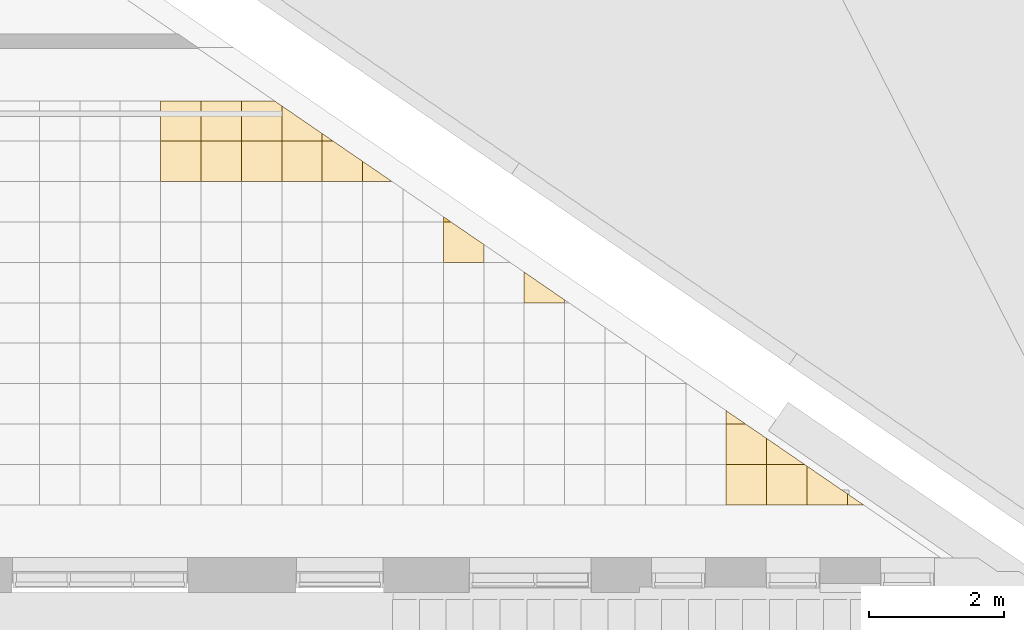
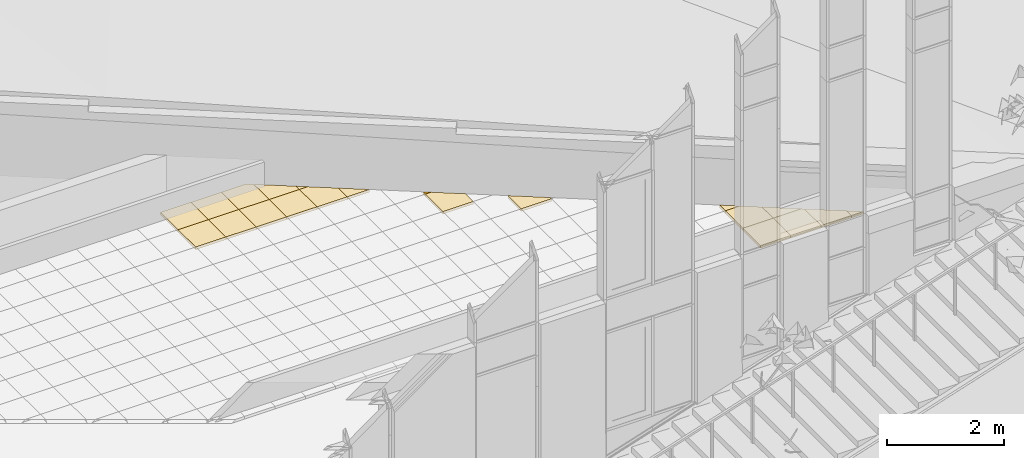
# One storey, part 200 of 246: 21 coverings.
"""IFC2X3 building model written with IfcOpenShell, lengths in millimetres."""

from ifc_helpers import new_model, entity, si_unit, converted_unit, derived_unit, money_unit, direction, frame, origin_with_axes, place, context, subcontext, project, spatial, faceted_brep, material, material_list, type_object, element, save


model = new_model("IFC2X3")

# Units and contexts
model_context = context("Model", 3, precision=0.01, world=origin_with_axes(), true_north=direction((0.0, 1.0)))
body_context = subcontext(model_context, "Body", "Model", "MODEL_VIEW")
ifc_project = project(units=[si_unit("LENGTHUNIT", "METRE", prefix="MILLI"), si_unit("AREAUNIT", "SQUARE_METRE"), si_unit("VOLUMEUNIT", "CUBIC_METRE"), converted_unit("PLANEANGLEUNIT", "DEGREE", entity("IfcPlaneAngleMeasure", 0.0174532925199), si_unit("PLANEANGLEUNIT", "RADIAN"), dimensions=[0, 0, 0, 0, 0, 0, 0]), si_unit("SOLIDANGLEUNIT", "STERADIAN"), money_unit("EUR"), converted_unit("TIMEUNIT", "Year", entity("IfcTimeMeasure", 31556926.0), si_unit("TIMEUNIT", "SECOND"), dimensions=[0, 0, 1, 0, 0, 0, 0]), si_unit("MASSUNIT", "GRAM", prefix="KILO"), si_unit("THERMODYNAMICTEMPERATUREUNIT", "DEGREE_CELSIUS"), si_unit("LUMINOUSINTENSITYUNIT", "LUMEN"), si_unit("ENERGYUNIT", "JOULE", prefix="MEGA"), derived_unit("THERMALCONDUCTANCEUNIT", [(si_unit("POWERUNIT", "WATT"), 1), (si_unit("LENGTHUNIT", "METRE"), -1), (si_unit("THERMODYNAMICTEMPERATUREUNIT", "KELVIN"), -1)]), derived_unit("SPECIFICHEATCAPACITYUNIT", [(si_unit("ENERGYUNIT", "JOULE"), 1), (si_unit("MASSUNIT", "GRAM", prefix="KILO"), -1), (si_unit("THERMODYNAMICTEMPERATUREUNIT", "KELVIN"), -1)]), derived_unit("MASSDENSITYUNIT", [(si_unit("MASSUNIT", "GRAM", prefix="KILO"), 1), (si_unit("VOLUMEUNIT", "CUBIC_METRE"), -1)])], contexts=[model_context])

# Site, building, storey
site_placement = place(None, origin_with_axes())
site = spatial("IfcSite", under=ifc_project, at=site_placement, Name="L.Koidula tn 11b", CompositionType="ELEMENT")
building_placement = place(site_placement, origin_with_axes())
building = spatial("IfcBuilding", under=site, at=building_placement, Name="Rakvere Riigigümnaasium", CompositionType="ELEMENT")
storey_placement = place(building_placement, origin_with_axes())
storey = spatial("IfcBuildingStorey", under=building, at=storey_placement, Name="1.korrus 0,00", CompositionType="ELEMENT", Elevation=0.0)

# Coverings
ifc_material_1 = material(Name="Karkass")
ifc_material_2 = material(Name="Kipsplaat")
ifc_material_list = material_list([ifc_material_1, ifc_material_2])
covering_type = type_object("IfcCoveringType", Name="SA-LV-Kips-moodul 55", PredefinedType="CEILING")
for number, where, z_axis, x_axis, name in (
    (1, (91709.8850867, 11090.4535941, 2750.0), (0.0, 0.0, 1.0), (1.0, 0.0, 0.0), "L-03"),
    (2, (91709.8850867, 11690.4535941, 2750.0), (0.0, 0.0, 1.0), (1.0, 0.0, 0.0), "L-03"),
):
    element("IfcCovering", number, at=place(storey_placement, frame(where, z_axis=z_axis, x_axis=x_axis)), inside=storey, type_object=covering_type, material=ifc_material_list, Name=name, PredefinedType="CEILING", context=body_context, shape_type="Brep", body=[
        faceted_brep([(599.999948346, 0.0, 12.5), (599.999948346, 0.0, 54.5), (0.0, 0.0, 54.5), (0.0, 0.0, 12.5), (599.999948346, 600.0, 12.5), (599.999948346, 600.0, 54.5), (0.0, 600.0, 54.5), (0.0, 600.0, 12.5)], [[[0, 1, 2, 3]], [[4, 5, 1, 0]], [[2, 1, 5, 6]], [[3, 2, 6, 7]], [[3, 7, 4, 0]], [[7, 6, 5, 4]]]),
        faceted_brep([(0.0, 0.0, 0.0), (599.999948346, 0.0, 0.0), (599.999948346, 0.0, 12.5), (0.0, 0.0, 12.5), (0.0, 600.0, 0.0), (599.999948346, 600.0, 0.0), (599.999948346, 600.0, 12.5), (0.0, 600.0, 12.5)], [[[0, 1, 2, 3]], [[0, 4, 5, 1]], [[1, 5, 6, 2]], [[3, 2, 6, 7]], [[4, 0, 3, 7]], [[5, 4, 7, 6]]]),
    ])
for number, where, z_axis, x_axis, name in (
    (3, (91109.8850867, 11090.4535941, 2750.0), (0.0, 0.0, 1.0), (1.0, 0.0, 0.0), "L-03"),
    (4, (91109.8850867, 11690.4535941, 2750.0), (0.0, 0.0, 1.0), (1.0, 0.0, 0.0), "L-03"),
):
    element("IfcCovering", number, at=place(storey_placement, frame(where, z_axis=z_axis, x_axis=x_axis)), inside=storey, type_object=covering_type, material=ifc_material_list, Name=name, PredefinedType="CEILING", context=body_context, shape_type="Brep", body=[
        faceted_brep([(600.0, 0.0, 12.5), (600.0, 0.0, 54.5), (0.0, 0.0, 54.5), (0.0, 0.0, 12.5), (600.0, 600.0, 12.5), (600.0, 600.0, 54.5), (0.0, 600.0, 54.5), (0.0, 600.0, 12.5)], [[[0, 1, 2, 3]], [[4, 5, 1, 0]], [[2, 1, 5, 6]], [[3, 2, 6, 7]], [[3, 7, 4, 0]], [[7, 6, 5, 4]]]),
        faceted_brep([(0.0, 0.0, 0.0), (600.0, 0.0, 0.0), (600.0, 0.0, 12.5), (0.0, 0.0, 12.5), (0.0, 600.0, 0.0), (600.0, 600.0, 0.0), (600.0, 600.0, 12.5), (0.0, 600.0, 12.5)], [[[0, 1, 2, 3]], [[0, 4, 5, 1]], [[1, 5, 6, 2]], [[3, 2, 6, 7]], [[4, 0, 3, 7]], [[5, 4, 7, 6]]]),
    ])
covering_1_placement = place(storey_placement, frame((92909.8850351, 11090.4535941, 2750.0), z_axis=(0.0, 0.0, 1.0), x_axis=(1.0, 0.0, 0.0)))
element("IfcCovering", 5, at=covering_1_placement, inside=storey, type_object=covering_type, material=ifc_material_list, Name="L-03", PredefinedType="CEILING", context=body_context, shape_type="Brep", body=[
    faceted_brep([(599.999948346, 0.0, 12.5), (599.999948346, 0.0, 54.5), (0.0, 0.0, 54.5), (0.0, 0.0, 12.5), (599.999948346, 600.0, 12.5), (599.999948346, 600.0, 54.5), (0.0, 600.0, 54.5), (0.0, 600.0, 12.5)], [[[0, 1, 2, 3]], [[4, 5, 1, 0]], [[2, 1, 5, 6]], [[3, 2, 6, 7]], [[3, 7, 4, 0]], [[7, 6, 5, 4]]]),
    faceted_brep([(0.0, 0.0, 0.0), (599.999948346, 0.0, 0.0), (599.999948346, 0.0, 12.5), (0.0, 0.0, 12.5), (0.0, 600.0, 0.0), (599.999948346, 600.0, 0.0), (599.999948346, 600.0, 12.5), (0.0, 600.0, 12.5)], [[[0, 1, 2, 3]], [[0, 4, 5, 1]], [[1, 5, 6, 2]], [[3, 2, 6, 7]], [[4, 0, 3, 7]], [[5, 4, 7, 6]]]),
])
covering_2_placement = place(storey_placement, frame((92909.8850351, 11690.4535941, 2750.0), z_axis=(0.0, 0.0, 1.0), x_axis=(1.0, 0.0, 0.0)))
element("IfcCovering", 6, at=covering_2_placement, inside=storey, type_object=covering_type, material=ifc_material_list, Name="L-03", PredefinedType="CEILING", context=body_context, shape_type="Brep", body=[
    faceted_brep([(599.999948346, 0.0, 12.5), (599.999948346, 0.0, 54.5), (0.0, 0.0, 54.5), (0.0, 0.0, 12.5), (599.999948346, 113.188818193, 12.5), (599.999948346, 113.188818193, 54.5), (0.0, 524.715256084, 54.5), (0.0, 524.715256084, 12.5)], [[[0, 1, 2, 3]], [[4, 5, 1, 0]], [[2, 1, 5, 6]], [[3, 2, 6, 7]], [[3, 7, 4, 0]], [[7, 6, 5, 4]]]),
    faceted_brep([(0.0, 0.0, 0.0), (599.999948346, 0.0, 0.0), (599.999948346, 0.0, 12.5), (0.0, 0.0, 12.5), (0.0, 524.715256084, 0.0), (599.999948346, 113.188818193, 0.0), (599.999948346, 113.188818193, 12.5), (0.0, 524.715256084, 12.5)], [[[0, 1, 2, 3]], [[0, 4, 5, 1]], [[1, 5, 6, 2]], [[3, 2, 6, 7]], [[4, 0, 3, 7]], [[5, 4, 7, 6]]]),
])
covering_3_placement = place(storey_placement, frame((92309.8850351, 11090.4535941, 2750.0), z_axis=(0.0, 0.0, 1.0), x_axis=(1.0, 0.0, 0.0)))
element("IfcCovering", 7, at=covering_3_placement, inside=storey, type_object=covering_type, material=ifc_material_list, Name="L-03", PredefinedType="CEILING", context=body_context, shape_type="Brep", body=[
    faceted_brep([(600.0, 0.0, 12.5), (600.0, 0.0, 54.5), (0.0, 0.0, 54.5), (0.0, 0.0, 12.5), (600.0, 600.0, 12.5), (600.0, 600.0, 54.5), (0.0, 600.0, 54.5), (0.0, 600.0, 12.5)], [[[0, 1, 2, 3]], [[4, 5, 1, 0]], [[2, 1, 5, 6]], [[3, 2, 6, 7]], [[3, 7, 4, 0]], [[7, 6, 5, 4]]]),
    faceted_brep([(0.0, 0.0, 0.0), (600.0, 0.0, 0.0), (600.0, 0.0, 12.5), (0.0, 0.0, 12.5), (0.0, 600.0, 0.0), (600.0, 600.0, 0.0), (600.0, 600.0, 12.5), (0.0, 600.0, 12.5)], [[[0, 1, 2, 3]], [[0, 4, 5, 1]], [[1, 5, 6, 2]], [[3, 2, 6, 7]], [[4, 0, 3, 7]], [[5, 4, 7, 6]]]),
])
covering_4_placement = place(storey_placement, frame((92309.8850351, 11690.4535941, 2750.0), z_axis=(0.0, 0.0, 1.0), x_axis=(1.0, 0.0, 0.0)))
element("IfcCovering", 8, at=covering_4_placement, inside=storey, type_object=covering_type, material=ifc_material_list, Name="L-03", PredefinedType="CEILING", context=body_context, shape_type="Brep", body=[
    faceted_brep([(600.0, 0.0, 12.5), (600.0, 0.0, 54.5), (0.0, 0.0, 54.5), (0.0, 0.0, 12.5), (600.0, 524.715256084, 12.5), (600.0, 524.715256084, 54.5), (490.235867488, 600.0, 54.5), (0.0, 600.0, 54.5), (0.0, 600.0, 12.5), (490.235867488, 600.0, 12.5)], [[[0, 1, 2, 3]], [[4, 5, 1, 0]], [[2, 1, 5, 6, 7]], [[3, 2, 7, 8]], [[3, 8, 9, 4, 0]], [[9, 6, 5, 4]], [[8, 7, 6, 9]]]),
    faceted_brep([(0.0, 0.0, 0.0), (600.0, 0.0, 0.0), (600.0, 0.0, 12.5), (0.0, 0.0, 12.5), (0.0, 600.0, 0.0), (490.235867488, 600.0, 0.0), (600.0, 524.715256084, 0.0), (600.0, 524.715256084, 12.5), (490.235867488, 600.0, 12.5), (0.0, 600.0, 12.5)], [[[0, 1, 2, 3]], [[0, 4, 5, 6, 1]], [[1, 6, 7, 2]], [[3, 2, 7, 8, 9]], [[4, 0, 3, 9]], [[5, 4, 9, 8]], [[6, 5, 8, 7]]]),
])
covering_5_placement = place(storey_placement, frame((94109.8849834, 11090.4535941, 2750.0), z_axis=(0.0, 0.0, 1.0), x_axis=(1.0, 0.0, 0.0)))
element("IfcCovering", 9, at=covering_5_placement, inside=storey, type_object=covering_type, material=ifc_material_list, Name="L-03", PredefinedType="CEILING", context=body_context, shape_type="Brep", body=[
    faceted_brep([(439.819595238, 0.0, 12.5), (439.819595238, 0.0, 54.5), (0.0, 0.0, 54.5), (0.0, 0.0, 12.5), (0.0, 301.662344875, 12.5), (0.0, 301.662344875, 54.5)], [[[0, 1, 2, 3]], [[4, 5, 1, 0]], [[2, 1, 5]], [[3, 2, 5, 4]], [[3, 4, 0]]]),
    faceted_brep([(0.0, 0.0, 0.0), (439.819595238, 0.0, 0.0), (439.819595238, 0.0, 12.5), (0.0, 0.0, 12.5), (0.0, 301.662344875, 0.0), (0.0, 301.662344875, 12.5)], [[[0, 1, 2, 3]], [[0, 4, 1]], [[1, 4, 5, 2]], [[3, 2, 5]], [[4, 0, 3, 5]]]),
])
covering_6_placement = place(storey_placement, frame((93509.8849834, 11090.4535941, 2750.0), z_axis=(0.0, 0.0, 1.0), x_axis=(1.0, 0.0, 0.0)))
element("IfcCovering", 10, at=covering_6_placement, inside=storey, type_object=covering_type, material=ifc_material_list, Name="L-03", PredefinedType="CEILING", context=body_context, shape_type="Brep", body=[
    faceted_brep([(600.0, 0.0, 12.5), (600.0, 0.0, 54.5), (0.0, 0.0, 54.5), (0.0, 0.0, 12.5), (600.0, 301.662344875, 12.5), (600.0, 301.662344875, 54.5), (165.02775719, 600.0, 54.5), (0.0, 600.0, 54.5), (0.0, 600.0, 12.5), (165.02775719, 600.0, 12.5)], [[[0, 1, 2, 3]], [[4, 5, 1, 0]], [[2, 1, 5, 6, 7]], [[3, 2, 7, 8]], [[3, 8, 9, 4, 0]], [[9, 6, 5, 4]], [[8, 7, 6, 9]]]),
    faceted_brep([(0.0, 0.0, 0.0), (600.0, 0.0, 0.0), (600.0, 0.0, 12.5), (0.0, 0.0, 12.5), (0.0, 600.0, 0.0), (165.02775719, 600.0, 0.0), (600.0, 301.662344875, 0.0), (600.0, 301.662344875, 12.5), (165.02775719, 600.0, 12.5), (0.0, 600.0, 12.5)], [[[0, 1, 2, 3]], [[0, 4, 5, 6, 1]], [[1, 6, 7, 2]], [[3, 2, 7, 8, 9]], [[4, 0, 3, 9]], [[5, 4, 9, 8]], [[6, 5, 8, 7]]]),
])
covering_7_placement = place(storey_placement, frame((93509.8849834, 11690.4535941, 2750.0), z_axis=(0.0, 0.0, 1.0), x_axis=(1.0, 0.0, 0.0)))
element("IfcCovering", 11, at=covering_7_placement, inside=storey, type_object=covering_type, material=ifc_material_list, Name="L-03", PredefinedType="CEILING", context=body_context, shape_type="Brep", body=[
    faceted_brep([(165.02775719, 0.0, 12.5), (165.02775719, 0.0, 54.5), (0.0, 0.0, 54.5), (0.0, 0.0, 12.5), (0.0, 113.188818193, 12.5), (0.0, 113.188818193, 54.5)], [[[0, 1, 2, 3]], [[4, 5, 1, 0]], [[2, 1, 5]], [[3, 2, 5, 4]], [[3, 4, 0]]]),
    faceted_brep([(0.0, 0.0, 0.0), (165.02775719, 0.0, 0.0), (165.02775719, 0.0, 12.5), (0.0, 0.0, 12.5), (0.0, 113.188818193, 0.0), (0.0, 113.188818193, 12.5)], [[[0, 1, 2, 3]], [[0, 4, 1]], [[1, 4, 5, 2]], [[3, 2, 5]], [[4, 0, 3, 5]]]),
])
covering_8_placement = place(storey_placement, frame((95309.8849318, 10490.4535941, 2750.0), z_axis=(0.0, 0.0, 1.0), x_axis=(1.0, 0.0, 0.0)))
element("IfcCovering", 12, at=covering_8_placement, inside=storey, type_object=covering_type, material=ifc_material_list, Name="L-03", PredefinedType="CEILING", context=body_context, shape_type="Brep", body=[
    faceted_brep([(114.61148494, 0.0, 12.5), (114.61148494, 0.0, 54.5), (0.0, 0.0, 54.5), (0.0, 0.0, 12.5), (0.0, 78.6094336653, 12.5), (0.0, 78.6094336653, 54.5)], [[[0, 1, 2, 3]], [[4, 5, 1, 0]], [[2, 1, 5]], [[3, 2, 5, 4]], [[3, 4, 0]]]),
    faceted_brep([(0.0, 0.0, 0.0), (114.61148494, 0.0, 0.0), (114.61148494, 0.0, 12.5), (0.0, 0.0, 12.5), (0.0, 78.6094336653, 0.0), (0.0, 78.6094336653, 12.5)], [[[0, 1, 2, 3]], [[0, 4, 1]], [[1, 4, 5, 2]], [[3, 2, 5]], [[4, 0, 3, 5]]]),
])
covering_9_placement = place(storey_placement, frame((95309.8849318, 9890.45359412, 2750.0), z_axis=(0.0, 0.0, 1.0), x_axis=(1.0, 0.0, 0.0)))
element("IfcCovering", 13, at=covering_9_placement, inside=storey, type_object=covering_type, material=ifc_material_list, Name="L-03", PredefinedType="CEILING", context=body_context, shape_type="Brep", body=[
    faceted_brep([(599.999948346, 0.0, 12.5), (599.999948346, 0.0, 54.5), (0.0, 0.0, 54.5), (0.0, 0.0, 12.5), (599.999948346, 267.082995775, 12.5), (599.999948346, 267.082995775, 54.5), (114.61148494, 600.0, 54.5), (0.0, 600.0, 54.5), (0.0, 600.0, 12.5), (114.61148494, 600.0, 12.5)], [[[0, 1, 2, 3]], [[4, 5, 1, 0]], [[2, 1, 5, 6, 7]], [[3, 2, 7, 8]], [[3, 8, 9, 4, 0]], [[9, 6, 5, 4]], [[8, 7, 6, 9]]]),
    faceted_brep([(0.0, 0.0, 0.0), (599.999948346, 0.0, 0.0), (599.999948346, 0.0, 12.5), (0.0, 0.0, 12.5), (0.0, 600.0, 0.0), (114.61148494, 600.0, 0.0), (599.999948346, 267.082995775, 0.0), (599.999948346, 267.082995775, 12.5), (114.61148494, 600.0, 12.5), (0.0, 600.0, 12.5)], [[[0, 1, 2, 3]], [[0, 4, 5, 6, 1]], [[1, 6, 7, 2]], [[3, 2, 7, 8, 9]], [[4, 0, 3, 9]], [[5, 4, 9, 8]], [[6, 5, 8, 7]]]),
])
covering_10_placement = place(storey_placement, frame((96509.8848801, 9290.45359412, 2750.0), z_axis=(0.0, 0.0, 1.0), x_axis=(1.0, 0.0, 0.0)))
element("IfcCovering", 14, at=covering_10_placement, inside=storey, type_object=covering_type, material=ifc_material_list, Name="L-03", PredefinedType="CEILING", context=body_context, shape_type="Brep", body=[
    faceted_brep([(599.999948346, 0.0, 12.5), (599.999948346, 0.0, 54.5), (0.0, 0.0, 54.5), (0.0, 0.0, 12.5), (599.999948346, 44.0300845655, 12.5), (599.999948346, 44.0300845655, 54.5), (0.0, 455.556522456, 54.5), (0.0, 455.556522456, 12.5)], [[[0, 1, 2, 3]], [[4, 5, 1, 0]], [[2, 1, 5, 6]], [[3, 2, 6, 7]], [[3, 7, 4, 0]], [[7, 6, 5, 4]]]),
    faceted_brep([(0.0, 0.0, 0.0), (599.999948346, 0.0, 0.0), (599.999948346, 0.0, 12.5), (0.0, 0.0, 12.5), (0.0, 455.556522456, 0.0), (599.999948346, 44.0300845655, 0.0), (599.999948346, 44.0300845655, 12.5), (0.0, 455.556522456, 12.5)], [[[0, 1, 2, 3]], [[0, 4, 5, 1]], [[1, 5, 6, 2]], [[3, 2, 6, 7]], [[4, 0, 3, 7]], [[5, 4, 7, 6]]]),
])
covering_11_placement = place(storey_placement, frame((100109.884725, 6290.45359412, 2750.0), z_axis=(0.0, 0.0, 1.0), x_axis=(1.0, 0.0, 0.0)))
element("IfcCovering", 15, at=covering_11_placement, inside=storey, type_object=covering_type, material=ifc_material_list, Name="L-03", PredefinedType="CEILING", context=body_context, shape_type="Brep", body=[
    faceted_brep([(599.999948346, 0.0, 12.5), (599.999948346, 0.0, 54.5), (0.0, 0.0, 54.5), (0.0, 0.0, 12.5), (599.999948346, 574.871350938, 12.5), (599.999948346, 574.871350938, 54.5), (563.362719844, 600.0, 54.5), (0.0, 600.0, 54.5), (0.0, 600.0, 12.5), (563.362719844, 600.0, 12.5)], [[[0, 1, 2, 3]], [[4, 5, 1, 0]], [[2, 1, 5, 6, 7]], [[3, 2, 7, 8]], [[3, 8, 9, 4, 0]], [[9, 6, 5, 4]], [[8, 7, 6, 9]]]),
    faceted_brep([(0.0, 0.0, 0.0), (599.999948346, 0.0, 0.0), (599.999948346, 0.0, 12.5), (0.0, 0.0, 12.5), (0.0, 600.0, 0.0), (563.362719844, 600.0, 0.0), (599.999948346, 574.871350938, 0.0), (599.999948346, 574.871350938, 12.5), (563.362719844, 600.0, 12.5), (0.0, 600.0, 12.5)], [[[0, 1, 2, 3]], [[0, 4, 5, 6, 1]], [[1, 6, 7, 2]], [[3, 2, 7, 8, 9]], [[4, 0, 3, 9]], [[5, 4, 9, 8]], [[6, 5, 8, 7]]]),
])
covering_12_placement = place(storey_placement, frame((100109.884725, 6890.45359412, 2750.0), z_axis=(0.0, 0.0, 1.0), x_axis=(1.0, 0.0, 0.0)))
element("IfcCovering", 16, at=covering_12_placement, inside=storey, type_object=covering_type, material=ifc_material_list, Name="L-03", PredefinedType="CEILING", context=body_context, shape_type="Brep", body=[
    faceted_brep([(563.362719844, 0.0, 12.5), (563.362719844, 0.0, 54.5), (0.0, 0.0, 54.5), (0.0, 0.0, 12.5), (0.0, 386.397788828, 12.5), (0.0, 386.397788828, 54.5)], [[[0, 1, 2, 3]], [[4, 5, 1, 0]], [[2, 1, 5]], [[3, 2, 5, 4]], [[3, 4, 0]]]),
    faceted_brep([(0.0, 0.0, 0.0), (563.362719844, 0.0, 0.0), (563.362719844, 0.0, 12.5), (0.0, 0.0, 12.5), (0.0, 386.397788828, 0.0), (0.0, 386.397788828, 12.5)], [[[0, 1, 2, 3]], [[0, 4, 1]], [[1, 4, 5, 2]], [[3, 2, 5]], [[4, 0, 3, 5]]]),
])
covering_13_placement = place(storey_placement, frame((99509.8847251, 7490.45359412, 2750.0), z_axis=(0.0, 0.0, 1.0), x_axis=(1.0, 0.0, 0.0)))
element("IfcCovering", 17, at=covering_13_placement, inside=storey, type_object=covering_type, material=ifc_material_list, Name="L-03", PredefinedType="CEILING", context=body_context, shape_type="Brep", body=[
    faceted_brep([(288.570881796, 0.0, 12.5), (288.570881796, 0.0, 54.5), (0.0, 0.0, 54.5), (0.0, 0.0, 12.5), (0.0, 197.924262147, 12.5), (0.0, 197.924262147, 54.5)], [[[0, 1, 2, 3]], [[4, 5, 1, 0]], [[2, 1, 5]], [[3, 2, 5, 4]], [[3, 4, 0]]]),
    faceted_brep([(0.0, 0.0, 0.0), (288.570881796, 0.0, 0.0), (288.570881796, 0.0, 12.5), (0.0, 0.0, 12.5), (0.0, 197.924262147, 0.0), (0.0, 197.924262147, 12.5)], [[[0, 1, 2, 3]], [[0, 4, 1]], [[1, 4, 5, 2]], [[3, 2, 5]], [[4, 0, 3, 5]]]),
])
covering_14_placement = place(storey_placement, frame((99509.8847251, 6290.45359412, 2750.0), z_axis=(0.0, 0.0, 1.0), x_axis=(1.0, 0.0, 0.0)))
element("IfcCovering", 18, at=covering_14_placement, inside=storey, type_object=covering_type, material=ifc_material_list, Name="L-03", PredefinedType="CEILING", context=body_context, shape_type="Brep", body=[
    faceted_brep([(600.0, 0.0, 12.5), (600.0, 0.0, 54.5), (0.0, 0.0, 54.5), (0.0, 0.0, 12.5), (600.0, 600.0, 12.5), (600.0, 600.0, 54.5), (0.0, 600.0, 54.5), (0.0, 600.0, 12.5)], [[[0, 1, 2, 3]], [[4, 5, 1, 0]], [[2, 1, 5, 6]], [[3, 2, 6, 7]], [[3, 7, 4, 0]], [[7, 6, 5, 4]]]),
    faceted_brep([(0.0, 0.0, 0.0), (600.0, 0.0, 0.0), (600.0, 0.0, 12.5), (0.0, 0.0, 12.5), (0.0, 600.0, 0.0), (600.0, 600.0, 0.0), (600.0, 600.0, 12.5), (0.0, 600.0, 12.5)], [[[0, 1, 2, 3]], [[0, 4, 5, 1]], [[1, 5, 6, 2]], [[3, 2, 6, 7]], [[4, 0, 3, 7]], [[5, 4, 7, 6]]]),
])
covering_15_placement = place(storey_placement, frame((99509.8847251, 6890.45359412, 2750.0), z_axis=(0.0, 0.0, 1.0), x_axis=(1.0, 0.0, 0.0)))
element("IfcCovering", 19, at=covering_15_placement, inside=storey, type_object=covering_type, material=ifc_material_list, Name="L-03", PredefinedType="CEILING", context=body_context, shape_type="Brep", body=[
    faceted_brep([(600.0, 0.0, 12.5), (600.0, 0.0, 54.5), (0.0, 0.0, 54.5), (0.0, 0.0, 12.5), (600.0, 386.397788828, 12.5), (600.0, 386.397788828, 54.5), (288.570881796, 600.0, 54.5), (0.0, 600.0, 54.5), (0.0, 600.0, 12.5), (288.570881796, 600.0, 12.5)], [[[0, 1, 2, 3]], [[4, 5, 1, 0]], [[2, 1, 5, 6, 7]], [[3, 2, 7, 8]], [[3, 8, 9, 4, 0]], [[9, 6, 5, 4]], [[8, 7, 6, 9]]]),
    faceted_brep([(0.0, 0.0, 0.0), (600.0, 0.0, 0.0), (600.0, 0.0, 12.5), (0.0, 0.0, 12.5), (0.0, 600.0, 0.0), (288.570881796, 600.0, 0.0), (600.0, 386.397788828, 0.0), (600.0, 386.397788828, 12.5), (288.570881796, 600.0, 12.5), (0.0, 600.0, 12.5)], [[[0, 1, 2, 3]], [[0, 4, 5, 6, 1]], [[1, 6, 7, 2]], [[3, 2, 7, 8, 9]], [[4, 0, 3, 9]], [[5, 4, 9, 8]], [[6, 5, 8, 7]]]),
])
covering_16_placement = place(storey_placement, frame((101309.884673, 6290.45359412, 2750.0), z_axis=(0.0, 0.0, 1.0), x_axis=(1.0, 0.0, 0.0)))
element("IfcCovering", 20, at=covering_16_placement, inside=storey, type_object=covering_type, material=ifc_material_list, Name="L-03", PredefinedType="CEILING", context=body_context, shape_type="Brep", body=[
    faceted_brep([(238.154609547, 0.0, 12.5), (238.154609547, 0.0, 54.5), (0.0, 0.0, 54.5), (0.0, 0.0, 12.5), (0.0, 163.344877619, 12.5), (0.0, 163.344877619, 54.5)], [[[0, 1, 2, 3]], [[4, 5, 1, 0]], [[2, 1, 5]], [[3, 2, 5, 4]], [[3, 4, 0]]]),
    faceted_brep([(0.0, 0.0, 0.0), (238.154609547, 0.0, 0.0), (238.154609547, 0.0, 12.5), (0.0, 0.0, 12.5), (0.0, 163.344877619, 0.0), (0.0, 163.344877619, 12.5)], [[[0, 1, 2, 3]], [[0, 4, 1]], [[1, 4, 5, 2]], [[3, 2, 5]], [[4, 0, 3, 5]]]),
])
covering_17_placement = place(storey_placement, frame((100709.884673, 6290.45359412, 2750.0), z_axis=(0.0, 0.0, 1.0), x_axis=(1.0, 0.0, 0.0)))
element("IfcCovering", 21, at=covering_17_placement, inside=storey, type_object=covering_type, material=ifc_material_list, Name="L-03", PredefinedType="CEILING", context=body_context, shape_type="Brep", body=[
    faceted_brep([(600.0, 0.0, 12.5), (600.0, 0.0, 54.5), (0.0, 0.0, 54.5), (0.0, 0.0, 12.5), (600.0, 163.344877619, 12.5), (600.0, 163.344877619, 54.5), (0.0, 574.871350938, 54.5), (0.0, 574.871350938, 12.5)], [[[0, 1, 2, 3]], [[4, 5, 1, 0]], [[2, 1, 5, 6]], [[3, 2, 6, 7]], [[3, 7, 4, 0]], [[7, 6, 5, 4]]]),
    faceted_brep([(0.0, 0.0, 0.0), (600.0, 0.0, 0.0), (600.0, 0.0, 12.5), (0.0, 0.0, 12.5), (0.0, 574.871350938, 0.0), (600.0, 163.344877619, 0.0), (600.0, 163.344877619, 12.5), (0.0, 574.871350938, 12.5)], [[[0, 1, 2, 3]], [[0, 4, 5, 1]], [[1, 5, 6, 2]], [[3, 2, 6, 7]], [[4, 0, 3, 7]], [[5, 4, 7, 6]]]),
])

save(model, "model.ifc")
